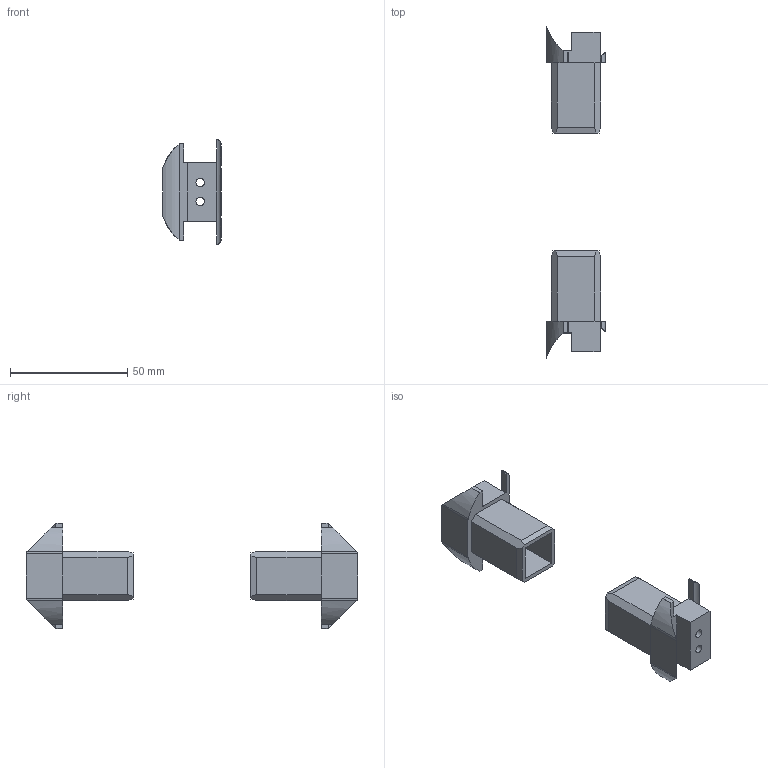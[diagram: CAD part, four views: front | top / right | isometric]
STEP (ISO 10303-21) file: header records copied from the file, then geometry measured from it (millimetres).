
FILE_DESCRIPTION (( 'STEP AP214' ), '1' );
FILE_NAME ('L15829 ENS.step', '2024-12-03T16:21:55', ( '' ), ( '' ), 'SwSTEP 2.0', 'SolidWorks 2023', '' );
FILE_SCHEMA (( 'AUTOMOTIVE_DESIGN' ));
Length unit declared in the file: millimetre
Products named in the file (2): L15829; L15829 ENS
Assembly tree (2 placements, depth 2):
  L15829 ENS
    L15829  x2
Bounding box: 25 x 141.57 x 44.88 mm (x, y, z)
Volume: 26155.4 mm3; surface area: 15266.3 mm2
Topology: 2 solids, 2 shells, 120 faces, 336 edges, 224 vertices
Faces by surface type: plane 76, cylinder 44
Full cylindrical faces by diameter (mm): 3.6 x4
Entity records: 2029 total; most frequent: CARTESIAN_POINT 419, ORIENTED_EDGE 332, DIRECTION 314, EDGE_CURVE 166, LINE 116, VECTOR 116, VERTEX_POINT 112, AXIS2_PLACEMENT_3D 99
